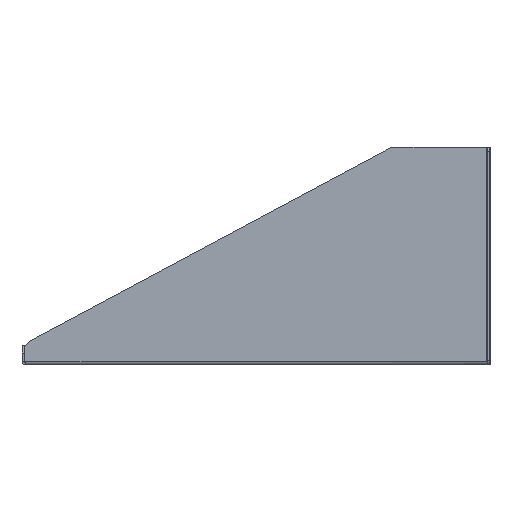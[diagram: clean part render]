
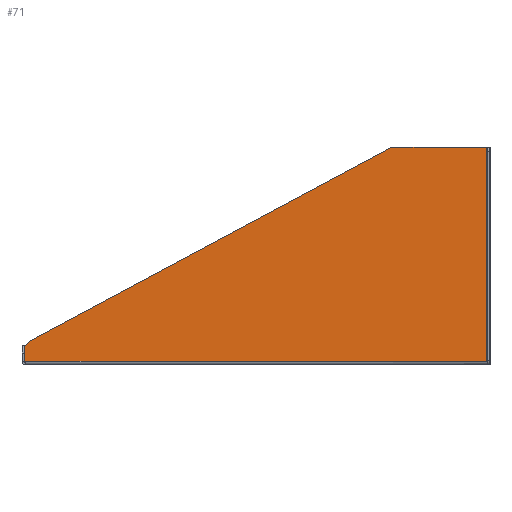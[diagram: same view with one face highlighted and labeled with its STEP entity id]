
A CAD part, left-side view. The second image highlights one B-rep face of the part: STEP entity #71.
In plain terms, the highlighted planar face has unit normal (-1, 0, 0).
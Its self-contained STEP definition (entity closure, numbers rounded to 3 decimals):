
#71 = ADVANCED_FACE( '', ( #925 ), #926, .F. );
#925 = FACE_OUTER_BOUND( '', #2423, .T. );
#926 = PLANE( '', #2424 );
#2423 = EDGE_LOOP( '', ( #4779, #4780, #4781, #4782, #4783, #4784, #4785, #4786 ) );
#2424 = AXIS2_PLACEMENT_3D( '', #4787, #4788, #4789 );
#4779 = ORIENTED_EDGE( '', *, *, #9818, .T. );
#4780 = ORIENTED_EDGE( '', *, *, #9820, .T. );
#4781 = ORIENTED_EDGE( '', *, *, #9827, .T. );
#4782 = ORIENTED_EDGE( '', *, *, #9828, .F. );
#4783 = ORIENTED_EDGE( '', *, *, #9829, .F. );
#4784 = ORIENTED_EDGE( '', *, *, #9830, .T. );
#4785 = ORIENTED_EDGE( '', *, *, #9831, .T. );
#4786 = ORIENTED_EDGE( '', *, *, #9832, .T. );
#4787 = CARTESIAN_POINT( '', ( -222.25, -189.586, 1.587 ) );
#4788 = DIRECTION( '', ( 1., 0., 0. ) );
#4789 = DIRECTION( '', ( 0., 0., -1. ) );
#9818 = EDGE_CURVE( '', #12558, #12556, #12559, .T. );
#9820 = EDGE_CURVE( '', #12556, #12535, #12561, .T. );
#9827 = EDGE_CURVE( '', #12535, #12519, #12571, .T. );
#9828 = EDGE_CURVE( '', #12572, #12519, #12573, .T. );
#9829 = EDGE_CURVE( '', #12574, #12572, #12575, .T. );
#9830 = EDGE_CURVE( '', #12574, #12576, #12577, .T. );
#9831 = EDGE_CURVE( '', #12576, #12578, #12579, .T. );
#9832 = EDGE_CURVE( '', #12578, #12558, #12580, .F. );
#12519 = VERTEX_POINT( '', #15921 );
#12535 = VERTEX_POINT( '', #15947 );
#12556 = VERTEX_POINT( '', #16010 );
#12558 = VERTEX_POINT( '', #16013 );
#12559 = LINE( '', #16014, #16015 );
#12561 = CIRCLE( '', #16018, 1.397 );
#12571 = LINE( '', #16063, #16064 );
#12572 = VERTEX_POINT( '', #16065 );
#12573 = LINE( '', #16066, #16067 );
#12574 = VERTEX_POINT( '', #16068 );
#12575 = LINE( '', #16069, #16070 );
#12576 = VERTEX_POINT( '', #16071 );
#12577 = LINE( '', #16072, #16073 );
#12578 = VERTEX_POINT( '', #16074 );
#12579 = LINE( '', #16075, #16076 );
#12580 = LINE( '', #16077, #16078 );
#15921 = CARTESIAN_POINT( '', ( -222.25, -188.671, 2.743 ) );
#15947 = CARTESIAN_POINT( '', ( -222.25, 187.214, 2.743 ) );
#16010 = CARTESIAN_POINT( '', ( -222.25, 187.755, 2.963 ) );
#16013 = CARTESIAN_POINT( '', ( -222.25, 187.755, 14.531 ) );
#16014 = CARTESIAN_POINT( '', ( -222.25, 187.755, 176.987 ) );
#16015 = VECTOR( '', #19510, 1000. );
#16018 = AXIS2_PLACEMENT_3D( '', #19512, #19513, #19514 );
#16063 = CARTESIAN_POINT( '', ( -222.25, 189.586, 2.743 ) );
#16064 = VECTOR( '', #19525, 1000. );
#16065 = CARTESIAN_POINT( '', ( -222.25, -188.671, 2.745 ) );
#16066 = CARTESIAN_POINT( '', ( -222.25, -188.671, 2.745 ) );
#16067 = VECTOR( '', #19526, 1000. );
#16068 = CARTESIAN_POINT( '', ( -222.25, -188.671, 176.987 ) );
#16069 = CARTESIAN_POINT( '', ( -222.25, -188.671, 2.745 ) );
#16070 = VECTOR( '', #19527, 1000. );
#16071 = CARTESIAN_POINT( '', ( -222.25, -111.481, 176.987 ) );
#16072 = CARTESIAN_POINT( '', ( -222.25, -189.586, 176.987 ) );
#16073 = VECTOR( '', #19528, 1000. );
#16074 = CARTESIAN_POINT( '', ( -222.25, 182.756, 19.53 ) );
#16075 = CARTESIAN_POINT( '', ( -222.25, -99.23, 170.432 ) );
#16076 = VECTOR( '', #19529, 1000. );
#16077 = CARTESIAN_POINT( '', ( -222.25, 182.756, 19.53 ) );
#16078 = VECTOR( '', #19530, 1000. );
#19510 = DIRECTION( '', ( 0., 0., -1. ) );
#19512 = CARTESIAN_POINT( '', ( -222.25, 187.998, 1.587 ) );
#19513 = DIRECTION( '', ( 1., 0., 0. ) );
#19514 = DIRECTION( '', ( 0., 1., 0. ) );
#19525 = DIRECTION( '', ( 0., -1., 0. ) );
#19526 = DIRECTION( '', ( 0., 0., -1. ) );
#19527 = DIRECTION( '', ( 0., 0., -1. ) );
#19528 = DIRECTION( '', ( 0., 1., 0. ) );
#19529 = DIRECTION( '', ( 0., 0.882, -0.472 ) );
#19530 = DIRECTION( '', ( 0., -0.707, 0.707 ) );
